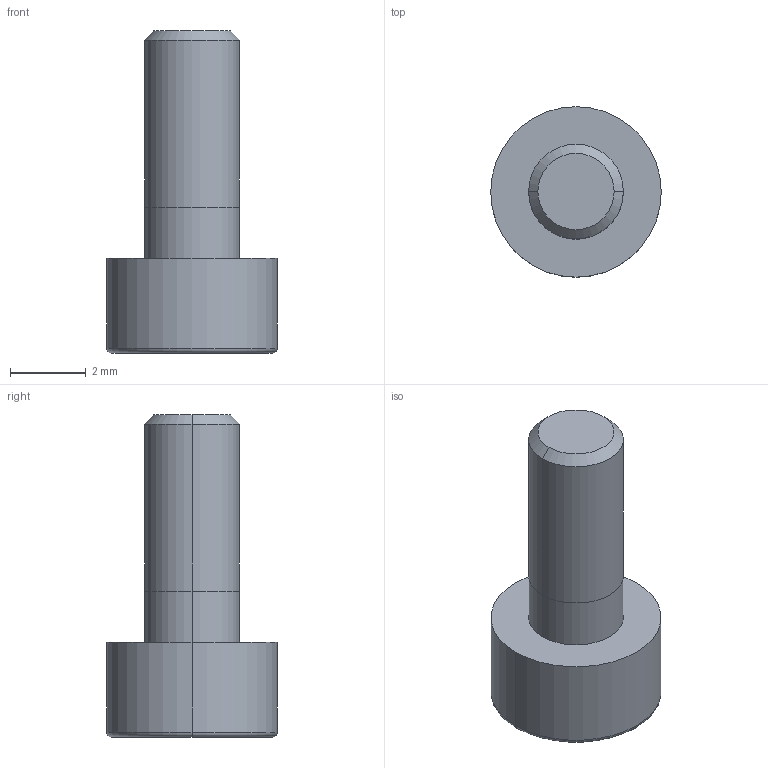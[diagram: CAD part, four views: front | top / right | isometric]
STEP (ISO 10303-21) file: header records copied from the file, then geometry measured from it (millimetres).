
FILE_DESCRIPTION(/* description */ ('VariCAD 2008 3.04 AP-203'),/* implementation_level */ '2;1');
FILE_NAME(/* name */ '0353-98-07',/* time_stamp */ '2009-04-28T12:34:54-06:00',/* author */ (''),/* organization */ (''),/* preprocessor_version */ 'ST-DEVELOPER v12',/* originating_system */ 'VariCAD 2008 3.04; kernel version (20080715)',/* authorisation */ '');
FILE_SCHEMA (('CONFIG_CONTROL_DESIGN'));
Length unit declared in the file: millimetre
Products named in the file (1): Part
Bounding box: 4.5 x 4.5 x 8.5 mm (x, y, z)
Volume: 64.1 mm3; surface area: 183.1 mm2
Topology: 2 solids, 2 shells, 35 faces, 72 edges, 41 vertices
Faces by surface type: cone 12, plane 11, cylinder 10, torus 2
Entity records: 1002 total; most frequent: CARTESIAN_POINT 229, DIRECTION 162, ORIENTED_EDGE 140, EDGE_CURVE 70, AXIS2_PLACEMENT_3D 70, VERTEX_POINT 41, EDGE_LOOP 39, ADVANCED_FACE 35
